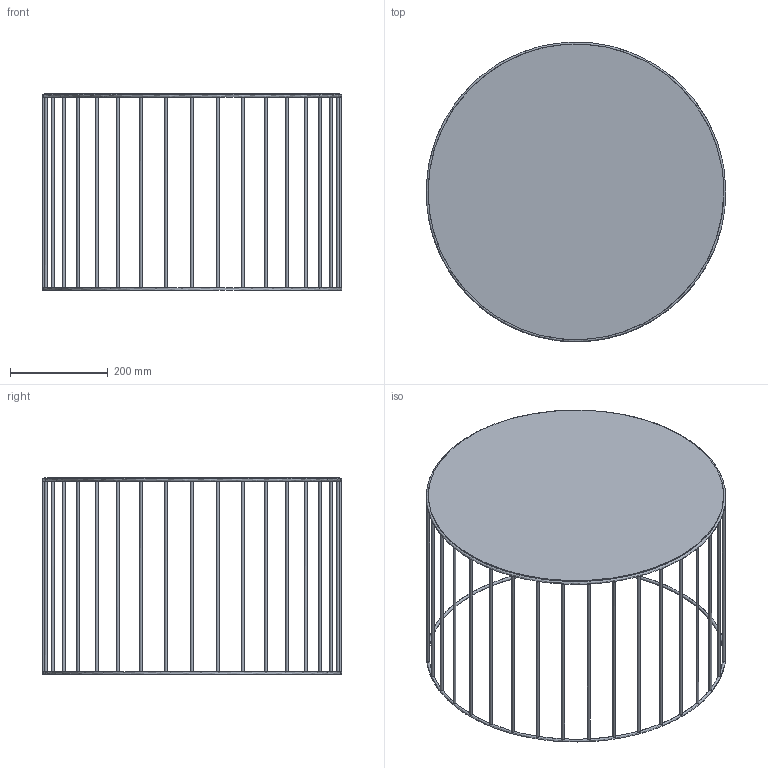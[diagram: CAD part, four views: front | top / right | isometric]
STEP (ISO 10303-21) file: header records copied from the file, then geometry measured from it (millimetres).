
FILE_DESCRIPTION(/* description */ (''),/* implementation_level */ '2;1');
FILE_NAME(/* name */ 'TZ8QS5~D',/* time_stamp */ '2024-04-05T12:14:38+02:00',/* author */ (''),/* organization */ (''),/* preprocessor_version */ 'ST-DEVELOPER v16.5',/* originating_system */ '',/* authorisation */ '');
FILE_SCHEMA (('AUTOMOTIVE_DESIGN'));
Length unit declared in the file: millimetre
Products named in the file (1): Document
Bounding box: 613 x 612.99 x 403 mm (x, y, z)
Volume: 1081248 mm3; surface area: 917736.7 mm2
Topology: 39 solids, 39 shells, 113 faces, 115 edges, 76 vertices
Faces by surface type: bspline 113
Entity records: 6120 total; most frequent: CARTESIAN_POINT 4416, ORIENTED_EDGE 230, PCURVE 230, DEFINITIONAL_REPRESENTATION 230, B_SPLINE_CURVE_WITH_KNOTS 156, SURFACE_CURVE 115, EDGE_CURVE 115, ADVANCED_FACE 113
